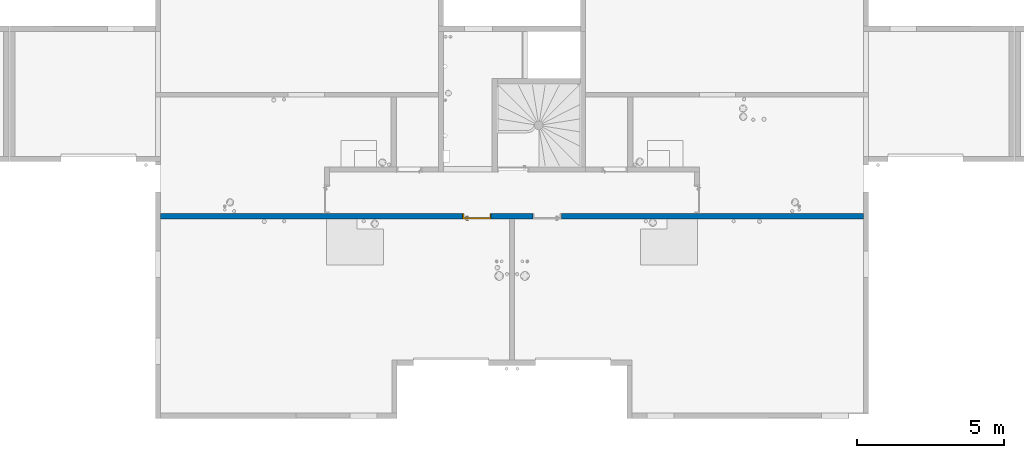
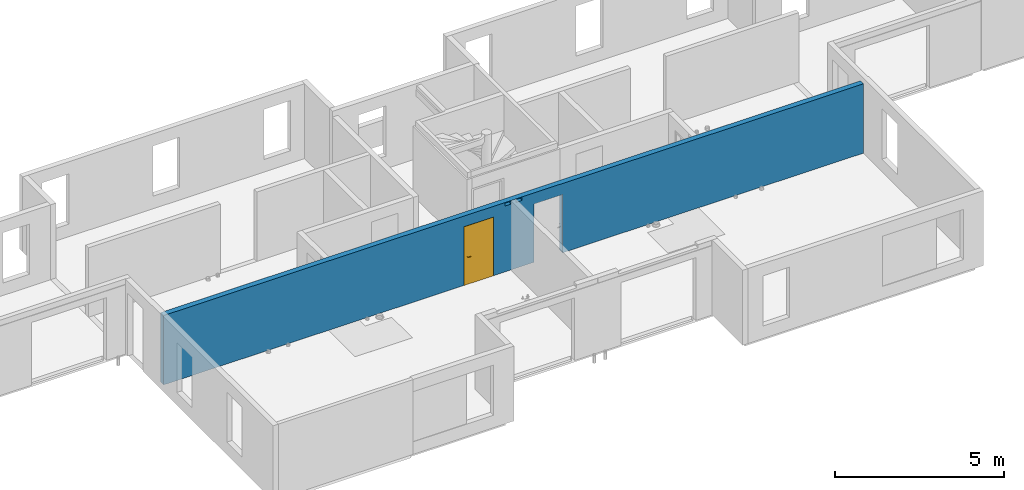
# One storey, part 9 of 30: 1 door, 1 wall, 6 openings.
"""IFC2X3 building model written with IfcOpenShell, lengths in centimetres."""

from ifc_helpers import new_model, entity, si_unit, converted_unit, derived_unit, direction, frame, frame_2d, origin, place, context, subcontext, project, spatial, rectangle, extrude, faceted_brep, source, transform, mapped, material, material_list, layer, layer_set, layer_usage, type_object, type_shapes, element, fill, save


model = new_model("IFC2X3")

# Units and contexts
model_context = context("Model", 3, precision=0.001, world=origin(), true_north=direction((6.12303176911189e-17, 1.0)))
body_context = subcontext(model_context, "Body", "Model", "MODEL_VIEW")
ifc_project = project(units=[si_unit("LENGTHUNIT", "METRE", prefix="CENTI"), si_unit("AREAUNIT", "SQUARE_METRE"), si_unit("VOLUMEUNIT", "CUBIC_METRE"), converted_unit("PLANEANGLEUNIT", "DEGREE", entity("IfcRatioMeasure", 0.0174532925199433), si_unit("PLANEANGLEUNIT", "RADIAN"), dimensions=[0, 0, 0, 0, 0, 0, 0]), si_unit("MASSUNIT", "GRAM", prefix="KILO"), derived_unit("MASSDENSITYUNIT", [(si_unit("MASSUNIT", "GRAM", prefix="KILO"), 1), (si_unit("LENGTHUNIT", "METRE"), -3)]), si_unit("TIMEUNIT", "SECOND"), si_unit("FREQUENCYUNIT", "HERTZ"), si_unit("THERMODYNAMICTEMPERATUREUNIT", "DEGREE_CELSIUS"), derived_unit("THERMALTRANSMITTANCEUNIT", [(si_unit("MASSUNIT", "GRAM", prefix="KILO"), 1), (si_unit("THERMODYNAMICTEMPERATUREUNIT", "KELVIN"), -1), (si_unit("TIMEUNIT", "SECOND"), -3)]), derived_unit("VOLUMETRICFLOWRATEUNIT", [(si_unit("LENGTHUNIT", "METRE"), 3), (si_unit("TIMEUNIT", "SECOND"), -1)]), si_unit("ELECTRICCURRENTUNIT", "AMPERE"), si_unit("ELECTRICVOLTAGEUNIT", "VOLT"), si_unit("POWERUNIT", "WATT"), si_unit("FORCEUNIT", "NEWTON"), si_unit("ILLUMINANCEUNIT", "LUX"), si_unit("LUMINOUSFLUXUNIT", "LUMEN"), si_unit("LUMINOUSINTENSITYUNIT", "CANDELA"), derived_unit("USERDEFINED", [(si_unit("MASSUNIT", "GRAM", prefix="KILO"), -1), (si_unit("LENGTHUNIT", "METRE"), -2), (si_unit("TIMEUNIT", "SECOND"), 3), (si_unit("LUMINOUSFLUXUNIT", "LUMEN"), 1)]), derived_unit("LINEARVELOCITYUNIT", [(si_unit("LENGTHUNIT", "METRE"), 1), (si_unit("TIMEUNIT", "SECOND"), -1)]), si_unit("PRESSUREUNIT", "PASCAL"), derived_unit("USERDEFINED", [(si_unit("LENGTHUNIT", "METRE"), -2), (si_unit("MASSUNIT", "GRAM", prefix="KILO"), 1), (si_unit("TIMEUNIT", "SECOND"), -2)])], contexts=[model_context])

# Site, building, storey
site_placement = place(None, origin())
site = spatial("IfcSite", under=ifc_project, at=site_placement, Name="Default", CompositionType="ELEMENT")
building_placement = place(site_placement, origin())
building = spatial("IfcBuilding", under=site, at=building_placement, Name="CAGE 03", CompositionType="ELEMENT")
storey_placement = place(building_placement, frame((0.0, 0.0, 610.0)))
storey = spatial("IfcBuildingStorey", under=building, at=storey_placement, Name="R+2", CompositionType="ELEMENT", Elevation=610.0)

# Wall, openings, door
ifc_material_1 = material(Name="Béton, C25/30")
ifc_layer = layer(ifc_material_1, 18.0)
ifc_layer_set = layer_set([ifc_layer], Name="Mur de base:Voile BA 18")
ifc_layer_usage = layer_usage(ifc_layer_set, "AXIS2", "NEGATIVE", 9.0)
wall_type = type_object("IfcWallType", Name="Mur de base:Voile BA 18", PredefinedType="STANDARD", material=ifc_layer_set)
wall_placement = place(storey_placement, frame((5888.36582014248, 4483.6606660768, 0.0)))
wall = element("IfcWallStandardCase", 1, at=wall_placement, inside=storey, type_object=wall_type, material=ifc_layer_usage, Name="Mur de base:Voile BA 18", ObjectType="Mur de base:Voile BA 18", context=body_context, shape_type="SweptSolid", body=[
    extrude(rectangle(XDim=2385.99999999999, YDim=17.9999999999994, at=frame_2d((1193.0, -8.88178419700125e-16), x_axis=(-1.0, 0.0))), origin(), (0.0, 0.0, 1.0), 250.0),
])
opening_1_placement = place(wall_placement, origin())
element("IfcOpeningElement", 2, at=opening_1_placement, cuts=wall, Name="Mur de base:Voile BA 18", ObjectType="Opening", context=body_context, shape_type="SweptSolid", body=[
    extrude(rectangle(XDim=210.000000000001, YDim=18.0000000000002, at=frame_2d((4.33431068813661e-13, -5.6843418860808e-14), x_axis=(0.0, 1.0))), frame((565.0, 9.0, 105.0), z_axis=(0.0, 1.0, 0.0), x_axis=(1.0, 0.0, 0.0)), (0.0, 0.0, 1.0), 96.9999999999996),
])
opening_2_placement = place(wall_placement, origin())
element("IfcOpeningElement", 3, at=opening_2_placement, cuts=wall, Name="Mur de base:Voile BA 18", ObjectType="Opening", context=body_context, shape_type="SweptSolid", body=[
    extrude(rectangle(XDim=210.000000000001, YDim=18.0000000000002, at=frame_2d((4.33431068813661e-13, -5.6843418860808e-14), x_axis=(0.0, 1.0))), frame((1821.0, 9.0, 105.0), z_axis=(0.0, 1.0, 0.0), x_axis=(1.0, 0.0, 0.0)), (0.0, 0.0, 1.0), 96.9999999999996),
])
opening_3_placement = place(wall_placement, origin())
element("IfcOpeningElement", 4, at=opening_3_placement, cuts=wall, Name="Mur de base:Voile BA 18", ObjectType="Opening", context=body_context, shape_type="SweptSolid", body=[
    extrude(rectangle(XDim=10.0, YDim=19.9999999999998, at=frame_2d((4.33431068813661e-13, -5.41788836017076e-14), x_axis=(0.0, 1.0))), frame((1174.0, -9.0, 242.5), z_axis=(0.0, 1.0, 0.0), x_axis=(1.0, 0.0, 0.0)), (0.0, 0.0, 1.0), 17.9999999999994),
])
opening_4_placement = place(wall_placement, origin())
element("IfcOpeningElement", 5, at=opening_4_placement, cuts=wall, Name="Mur de base:Voile BA 18", ObjectType="Opening", context=body_context, shape_type="SweptSolid", body=[
    extrude(rectangle(XDim=10.0, YDim=19.9999999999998, at=frame_2d((4.33431068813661e-13, -5.41788836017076e-14), x_axis=(0.0, 1.0))), frame((1212.0, -9.0, 242.5), z_axis=(0.0, 1.0, 0.0), x_axis=(1.0, 0.0, 0.0)), (0.0, 0.0, 1.0), 17.9999999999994),
])
opening_5_placement = place(wall_placement, frame((1122.5, 9.0, 0.0)))
opening_5 = element("IfcOpeningElement", 6, at=opening_5_placement, cuts=wall, Name="Int. Simple:HB93:1", ObjectType="Opening", context=body_context, shape_type="SweptSolid", body=[
    extrude(rectangle(XDim=210.000000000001, YDim=96.9999999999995, at=frame_2d((105.000000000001, 48.4999999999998), x_axis=(1.0, 0.0))), frame((0.0, 0.0, 0.0), z_axis=(0.0, -1.0, 0.0), x_axis=(0.0, 0.0, 1.0)), (0.0, 0.0, 1.0), 18.0),
])
opening_6_placement = place(wall_placement, frame((1360.5, 9.0, 0.0)))
element("IfcOpeningElement", 7, at=opening_6_placement, cuts=wall, Name="Int. Simple:HB93:1", ObjectType="Opening", context=body_context, shape_type="SweptSolid", body=[
    extrude(rectangle(XDim=210.000000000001, YDim=96.9999999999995, at=frame_2d((105.000000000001, 48.4999999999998), x_axis=(1.0, 0.0))), frame((0.0, 0.0, 0.0), z_axis=(0.0, -1.0, 0.0), x_axis=(0.0, 0.0, 1.0)), (0.0, 0.0, 1.0), 18.0),
])
ifc_material_2 = material(Name="Finition Peinture - Blanc satiné")
ifc_material_3 = material(Name="Bois - Panneau de porte")
ifc_material_4 = material(Name="Bois - Cadre de porte")
ifc_material_list_1 = material_list([ifc_material_2, ifc_material_3, ifc_material_4])
ifc_material_list_2 = material_list([ifc_material_2, ifc_material_3, ifc_material_4])
door_style = type_object("IfcDoorStyle", Name="HB93", ConstructionType="NOTDEFINED", OperationType="SINGLE_SWING_LEFT", ParameterTakesPrecedence=False, Sizeable=False, material=ifc_material_list_2)
shared_shape = source(origin(), body_context, "Body", "Brep", [
    faceted_brep([(10.5352761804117, -0.500000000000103, 86.6003983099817), (11.5000000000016, -0.500000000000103, 87.0), (11.5000000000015, -0.500000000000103, 108.0), (10.5352761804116, -0.500000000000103, 108.399601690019), (9.50000000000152, -0.500000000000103, 108.535898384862), (8.46472381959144, -0.500000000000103, 108.399601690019), (7.50000000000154, -0.500000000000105, 108.0), (7.50000000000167, -0.500000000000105, 87.0), (8.46472381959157, -0.500000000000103, 86.6003983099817), (9.50000000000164, -0.500000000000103, 86.464101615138), (10.5352761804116, 0.0, 108.399601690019), (11.5000000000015, 0.0, 108.0), (11.5000000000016, 0.0, 87.0), (10.5352761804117, 0.0, 86.6003983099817), (9.50000000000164, 0.0, 86.464101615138), (8.46472381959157, 0.0, 86.6003983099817), (7.50000000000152, 0.0, 87.0), (7.50000000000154, 0.0, 108.0), (8.46472381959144, 0.0, 108.399601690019), (9.50000000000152, 0.0, 108.535898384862)], [[[0, 1, 2, 3, 4, 5, 6, 7, 8, 9]], [[10, 11, 12, 13, 14, 15, 16, 17, 18, 19]], [[16, 15, 8, 7]], [[8, 15, 14, 9]], [[14, 13, 0, 9]], [[13, 12, 1, 0]], [[2, 1, 12, 11]], [[11, 10, 3, 2]], [[3, 10, 19, 4]], [[19, 18, 5, 4]], [[18, 17, 6, 5]], [[7, 6, 17, 16]]]),
    faceted_brep([(10.5352761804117, 4.0, 86.6003983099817), (11.5000000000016, 4.0, 87.0), (11.5000000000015, 4.0, 108.0), (10.5352761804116, 4.0, 108.399601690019), (9.50000000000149, 4.0, 108.535898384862), (8.46472381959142, 4.0, 108.399601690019), (7.50000000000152, 4.0, 108.0), (7.50000000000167, 4.0, 87.0), (8.46472381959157, 4.0, 86.6003983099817), (9.50000000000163, 4.0, 86.464101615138), (10.5352761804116, 4.49999999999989, 108.399601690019), (11.5000000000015, 4.4999999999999, 108.0), (11.5000000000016, 4.4999999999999, 87.0), (10.5352761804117, 4.49999999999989, 86.6003983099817), (9.50000000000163, 4.49999999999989, 86.464101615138), (8.46472381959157, 4.49999999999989, 86.6003983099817), (7.50000000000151, 4.49999999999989, 87.0), (7.50000000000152, 4.49999999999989, 108.0), (8.46472381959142, 4.49999999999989, 108.399601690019), (9.50000000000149, 4.49999999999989, 108.535898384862)], [[[0, 1, 2, 3, 4, 5, 6, 7, 8, 9]], [[10, 11, 12, 13, 14, 15, 16, 17, 18, 19]], [[11, 10, 3, 2]], [[3, 10, 19, 4]], [[19, 18, 5, 4]], [[18, 17, 6, 5]], [[7, 6, 17, 16]], [[16, 15, 8, 7]], [[8, 15, 14, 9]], [[14, 13, 0, 9]], [[13, 12, 1, 0]], [[2, 1, 12, 11]]]),
    faceted_brep([(9.29747013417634, -0.500000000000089, 100.778044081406), (9.70252986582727, -0.500000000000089, 100.778044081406), (10.1000000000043, -0.500000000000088, 100.699999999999), (10.1000000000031, -0.500000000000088, 99.3000000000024), (9.70252986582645, -0.500000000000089, 99.2219559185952), (9.29747013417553, -0.500000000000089, 99.221955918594), (8.89999999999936, -0.500000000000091, 99.2999999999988), (8.89999999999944, -0.500000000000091, 100.7), (8.89999999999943, -3.26509507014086, 100.7), (9.29747013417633, -3.10045754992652, 100.778044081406), (10.9023585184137, -4.70534593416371, 100.778044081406), (11.0701397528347, -4.30028620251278, 100.778044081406), (9.70252986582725, -2.93267631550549, 100.778044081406), (10.1000000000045, -2.76803879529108, 100.7), (10.1000000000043, -2.76803879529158, 99.3000000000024), (9.70252986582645, -2.93267631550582, 99.2219559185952), (11.0701397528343, -4.30028620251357, 99.2219559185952), (10.9023585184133, -4.70534593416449, 99.221955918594), (9.29747013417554, -3.10045754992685, 99.221955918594), (8.89999999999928, -3.26509507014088, 99.2999999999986), (10.7377209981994, -5.1028160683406, 100.7), (11.2347772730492, -3.90281606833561, 100.7), (11.2347772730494, -3.90281606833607, 99.3000000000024), (10.7377209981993, -5.10281606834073, 99.2999999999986), (19.5018640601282, -5.1028160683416, 99.2999999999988), (19.5018640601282, -4.70534593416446, 99.221955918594), (19.5018640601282, -4.30028620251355, 99.2219559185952), (19.5018640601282, -3.90281606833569, 99.3000000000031), (19.5018640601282, -3.90281606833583, 100.7), (19.5018640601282, -4.30028620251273, 100.778044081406), (19.5018640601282, -4.70534593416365, 100.778044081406), (19.5018640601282, -5.10281606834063, 100.699999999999), (14.7307697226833, -5.10281606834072, 100.7), (15.28600190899, -4.5028160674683, 100.78786867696), (15.3683206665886, -3.9028160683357, 100.7), (15.3683206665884, -3.90281606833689, 99.3000000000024), (15.2860018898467, -4.50281607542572, 99.2121313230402), (14.7307700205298, -5.10281606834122, 99.2999999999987)], [[[0, 1, 2, 3, 4, 5, 6, 7]], [[8, 9, 0, 7]], [[9, 10, 11, 12, 1, 0]], [[12, 13, 2, 1]], [[3, 2, 13, 14]], [[14, 15, 4, 3]], [[15, 16, 17, 18, 5, 4]], [[18, 19, 6, 5]], [[7, 6, 19, 8]], [[20, 10, 9, 8]], [[11, 21, 13, 12]], [[14, 13, 21, 22]], [[22, 16, 15, 14]], [[17, 23, 19, 18]], [[8, 19, 23, 20]], [[24, 25, 26, 27, 28, 29, 30, 31]], [[32, 30, 33]], [[31, 30, 32]], [[10, 20, 32]], [[33, 34, 11]], [[21, 11, 34]], [[34, 29, 28]], [[30, 29, 33]], [[29, 34, 33]], [[10, 32, 33]], [[10, 33, 11]], [[22, 21, 34, 28, 27, 35]], [[35, 26, 36]], [[37, 36, 25]], [[22, 35, 16]], [[35, 27, 26]], [[24, 37, 25]], [[23, 17, 37]], [[37, 17, 36]], [[17, 16, 36]], [[16, 35, 36]], [[25, 36, 26]], [[20, 23, 37, 24, 31, 32]]]),
    faceted_brep([(9.29747013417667, 4.49999999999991, 100.778044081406), (8.89999999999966, 4.49999999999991, 100.7), (8.89999999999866, 4.49999999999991, 99.2999999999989), (9.2974701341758, 4.49999999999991, 99.221955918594), (9.70252986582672, 4.49999999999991, 99.2219559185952), (10.1000000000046, 4.49999999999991, 99.3000000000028), (10.1000000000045, 4.49999999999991, 100.7), (9.70252986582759, 4.49999999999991, 100.778044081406), (10.1000000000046, 6.7485204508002, 99.3000000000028), (10.1000000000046, 6.74852045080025, 100.7), (9.70252986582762, 6.91315797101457, 100.778044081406), (11.0838906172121, 8.29451872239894, 100.778044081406), (10.9161093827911, 8.69957845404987, 100.778044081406), (9.29747013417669, 7.0809392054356, 100.778044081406), (8.89999999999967, 7.24557672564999, 100.7), (8.89999999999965, 7.24557672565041, 99.2999999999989), (9.29747013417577, 7.08093920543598, 99.221955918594), (10.9161093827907, 8.69957845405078, 99.221955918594), (11.0838906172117, 8.29451872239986, 99.2219559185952), (9.7025298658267, 6.91315797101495, 99.2219559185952), (11.2485281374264, 7.89704858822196, 99.3000000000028), (11.2485281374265, 7.89704858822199, 100.7), (10.7514718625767, 9.0970485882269, 100.7), (10.751471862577, 9.0970485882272, 99.2999999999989), (19.504578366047, 7.89704858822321, 99.3000000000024), (19.504578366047, 8.29451872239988, 99.2219559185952), (19.504578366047, 8.6995784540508, 99.221955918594), (19.504578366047, 9.09704858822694, 99.2999999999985), (19.504578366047, 9.09704858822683, 100.7), (19.504578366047, 8.69957845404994, 100.778044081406), (19.504578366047, 8.29451872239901, 100.778044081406), (19.504578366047, 7.89704858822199, 100.7), (15.3765520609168, 7.89704858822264, 99.3000000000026), (15.3765532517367, 7.89704858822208, 100.7), (15.294234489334, 8.49704858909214, 100.78786867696), (14.7445205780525, 9.09704858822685, 100.7), (14.7445204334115, 9.09704858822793, 99.2999999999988), (15.2942345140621, 8.49704858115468, 99.2121313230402)], [[[0, 1, 2, 3, 4, 5, 6, 7]], [[6, 5, 8, 9]], [[9, 10, 7, 6]], [[10, 11, 12, 13, 0, 7]], [[13, 14, 1, 0]], [[2, 1, 14, 15]], [[15, 16, 3, 2]], [[16, 17, 18, 19, 4, 3]], [[19, 8, 5, 4]], [[9, 8, 20, 21]], [[21, 11, 10, 9]], [[12, 22, 14, 13]], [[15, 14, 22, 23]], [[23, 17, 16, 15]], [[18, 20, 8, 19]], [[24, 25, 26, 27, 28, 29, 30, 31]], [[21, 20, 32, 24, 31, 33]], [[33, 30, 34]], [[35, 34, 29]], [[21, 33, 11]], [[33, 31, 30]], [[28, 35, 29]], [[22, 12, 35]], [[35, 12, 34]], [[12, 11, 34]], [[11, 33, 34]], [[29, 34, 30]], [[22, 35, 28, 27, 36, 23]], [[36, 26, 37]], [[27, 26, 36]], [[17, 23, 36]], [[37, 32, 18]], [[20, 18, 32]], [[32, 25, 24]], [[26, 25, 37]], [[25, 32, 37]], [[17, 36, 37]], [[17, 37, 18]]]),
    faceted_brep([(3.50000000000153, 4.0, 206.5), (93.5000000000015, 4.0, 206.5), (93.5000000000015, 4.0, 0.0), (3.50000000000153, 4.0, 0.0), (3.50000000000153, 0.0, 206.5), (3.50000000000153, 0.0, 0.0), (93.5000000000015, 0.0, 0.0), (93.5000000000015, 0.0, 206.5)], [[[0, 1, 2, 3]], [[4, 5, 6, 7]], [[1, 0, 4, 7]], [[2, 1, 7, 6]], [[3, 2, 6, 5]], [[0, 3, 5, 4]]]),
    faceted_brep([(0.0, 0.0, 0.0), (0.0, 18.0, 0.0), (5.0, 18.0, 0.0), (5.0, 4.0, 0.0), (3.50000000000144, 4.0, 0.0), (3.50000000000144, 0.0, 0.0), (0.0, 0.0, 210.0), (0.0, 18.0, 210.0), (97.0, 18.0, 210.0), (97.0, 18.0, 0.0), (92.0, 18.0, 0.0), (92.0, 18.0, 205.0), (5.0, 18.0, 205.0), (5.0, 4.0, 205.0), (92.0, 4.0, 205.0), (92.0, 4.0, 0.0), (93.4999999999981, 4.0, 0.0), (93.4999999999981, 4.0, 206.5), (3.50000000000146, 4.0, 206.5), (3.50000000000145, 0.0, 206.5), (93.4999999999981, 0.0, 206.5), (93.4999999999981, 0.0, 0.0), (97.0, 0.0, 0.0), (97.0, 0.0, 210.0)], [[[0, 1, 2, 3, 4, 5]], [[1, 0, 6, 7]], [[2, 1, 7, 8, 9, 10, 11, 12]], [[3, 2, 12, 13]], [[4, 3, 13, 14, 15, 16, 17, 18]], [[5, 4, 18, 19]], [[0, 5, 19, 20, 21, 22, 23, 6]], [[8, 23, 22, 9]], [[22, 21, 16, 15, 10, 9]], [[14, 11, 10, 15]], [[20, 17, 16, 21]], [[7, 6, 23, 8]], [[13, 12, 11, 14]], [[19, 18, 17, 20]]]),
    faceted_brep([(1.5, 18.0, 0.0), (-1.49999999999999, 18.0, 0.0), (-1.49999999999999, 18.5000000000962, 0.0), (1.5, 18.5000000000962, 0.0), (1.5, 18.0, 208.500000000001), (95.4999999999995, 18.0, 208.500000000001), (95.4999999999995, 18.0, 0.0), (98.4999999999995, 18.0, 0.0), (98.4999999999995, 18.0, 211.500000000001), (-1.49999999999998, 18.0, 211.500000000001), (-1.49999999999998, 18.5000000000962, 211.500000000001), (98.4999999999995, 18.5000000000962, 211.500000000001), (98.4999999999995, 18.5000000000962, 0.0), (95.4999999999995, 18.5000000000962, 0.0), (95.4999999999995, 18.5000000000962, 208.500000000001), (1.50000000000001, 18.5000000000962, 208.500000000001)], [[[0, 1, 2, 3]], [[1, 0, 4, 5, 6, 7, 8, 9]], [[2, 1, 9, 10]], [[3, 2, 10, 11, 12, 13, 14, 15]], [[0, 3, 15, 4]], [[6, 13, 12, 7]], [[5, 14, 13, 6]], [[11, 8, 7, 12]], [[10, 9, 8, 11]], [[4, 15, 14, 5]]]),
    faceted_brep([(-1.49999999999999, -0.5, 0.0), (1.5, -0.5, 0.0), (1.5, -0.5, 208.500000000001), (95.4999999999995, -0.5, 208.500000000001), (95.4999999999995, -0.5, 0.0), (98.4999999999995, -0.5, 0.0), (98.4999999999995, -0.5, 211.500000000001), (-1.49999999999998, -0.5, 211.500000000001), (-1.49999999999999, 0.0, 0.0), (-1.49999999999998, 0.0, 211.500000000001), (1.5, 0.0, 0.0), (98.4999999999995, 0.0, 211.500000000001), (98.4999999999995, 0.0, 0.0), (95.4999999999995, 0.0, 0.0), (95.4999999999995, 0.0, 208.500000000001), (1.50000000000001, 0.0, 208.500000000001)], [[[0, 1, 2, 3, 4, 5, 6, 7]], [[8, 0, 7, 9]], [[10, 8, 9, 11, 12, 13, 14, 15]], [[1, 10, 15, 2]], [[3, 14, 13, 4]], [[11, 6, 5, 12]], [[9, 7, 6, 11]], [[2, 15, 14, 3]], [[4, 13, 12, 5]], [[1, 0, 8, 10]]]),
])
type_shapes(door_style, [shared_shape])
door_placement = place(opening_5_placement, frame((-97.0, -18.0, 0.0)))
door = element("IfcDoor", 8, at=door_placement, inside=storey, type_object=door_style, material=ifc_material_list_1, Name="Int. Simple:HB93", ObjectType="HB93", OverallHeight=210.000000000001, OverallWidth=96.9999999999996, context=body_context, shape_type="MappedRepresentation", body=[
    mapped(shared_shape, transform((0.0, 0.0, 0.0), scale=1.0)),
])
fill(opening_5, door)

save(model, "model.ifc")
